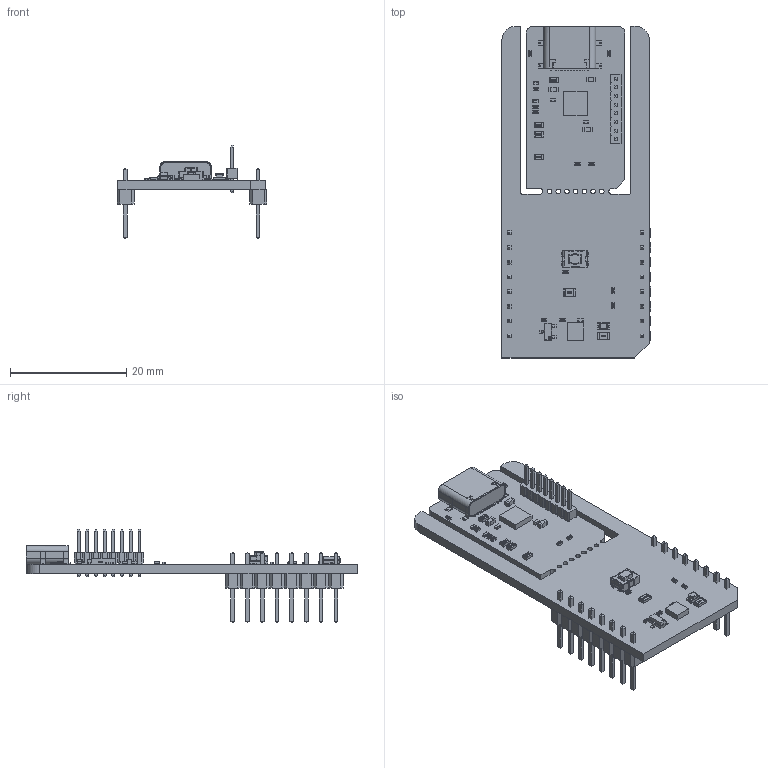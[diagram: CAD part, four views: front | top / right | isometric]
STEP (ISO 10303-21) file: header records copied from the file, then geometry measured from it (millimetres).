
FILE_DESCRIPTION(('Open CASCADE Model'),'2;1');
FILE_NAME('Open CASCADE Shape Model','2026-06-11T08:50:38',('Author'),( 'Open CASCADE'),'Open CASCADE STEP processor 6.8','Open CASCADE 6.8' ,'Unknown');
FILE_SCHEMA(('AUTOMOTIVE_DESIGN { 1 0 10303 214 1 1 1 1 }'));
Length unit declared in the file: millimetre
Products named in the file (83): PCB; Board; R1; User_Library-R_0805; LD1; led_0805_green; R2; User_Library-R_0402; C1; User_Library-SMD_CAPACITOR0402; R4; Q1; SOT23-3; U1; 1080570000; Extruded; T1; User_Library-Switch-CK-KMR2; User_Library-Switch-CK-KMR2_Button; User_Library-Switch-CK-KMR2_Boitier; User_Library-Switch-CK-KMR2_Tole; User_Library-Switch-CK-KMR2_Pads; R14; R13; R12; R11; LD3; Led_0402; LD2; TVS1; User_Library-R_0603; R10; R9; R8; R7; R6; R5; JP4; JP3; JP2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
Assembly tree (122 placements, depth 10):
  PCB
    Board
    R1
      User_Library-R_0805
    LD1
      led_0805_green
    R2
      User_Library-R_0402
    C1
      User_Library-SMD_CAPACITOR0402
    R4
      User_Library-R_0402
    Q1
      SOT23-3
    U1
      1080570000
        Extruded
    T1
      User_Library-Switch-CK-KMR2
        User_Library-Switch-CK-KMR2_Button
        User_Library-Switch-CK-KMR2_Boitier
        User_Library-Switch-CK-KMR2_Tole
        User_Library-Switch-CK-KMR2_Pads
    R14
      User_Library-R_0402
    R13
      User_Library-R_0402
    R12
      User_Library-R_0402
    R11
      User_Library-R_0402
    LD3
      Led_0402
    LD2
      Led_0402
    TVS1
      User_Library-R_0603
    R10
      User_Library-R_0402
    R9
      User_Library-R_0402
    R8
      User_Library-R_0402
    R7
      User_Library-R_0402
    R6
      User_Library-R_0402
    R5
      User_Library-R_0402
    JP4
      User_Library-R_0603
    JP3
      User_Library-R_0603
    JP2
      User_Library-R_0603
    J1
      YHC150V0GN-108
        1.5-2.0齬渀呿蝶_1-8P
        0.5-8.2  x8
    C6
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Bounding box: 25.78 x 57.23 x 16.11 mm (x, y, z)
Volume: 2948.3 mm3; surface area: 5687.3 mm2
Topology: 133 solids, 133 shells, 3281 faces, 8205 edges, 5266 vertices
Faces by surface type: plane 2391, bspline 582, cylinder 236, sphere 64, cone 6, torus 2
Full cylindrical faces by diameter (mm): 0.6 x2, 0.8 x7
Entity records: 50005 total; most frequent: CARTESIAN_POINT 13718, ORIENTED_EDGE 6054, DIRECTION 5514, EDGE_CURVE 3027, LINE 2442, VECTOR 2442, VERTEX_POINT 1950, AXIS2_PLACEMENT_3D 1536
